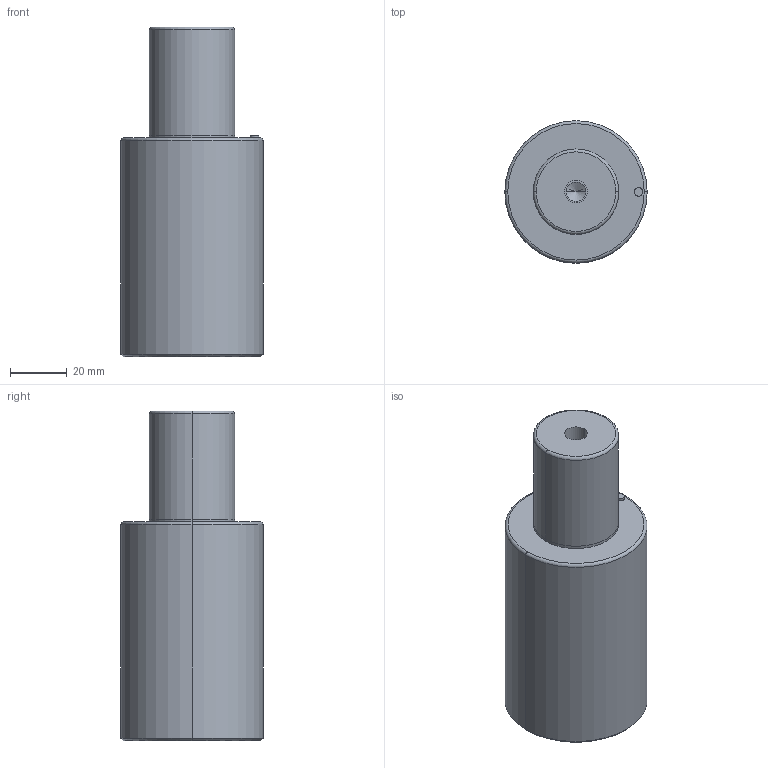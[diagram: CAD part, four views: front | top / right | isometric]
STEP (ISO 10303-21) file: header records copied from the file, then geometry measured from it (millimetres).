
FILE_DESCRIPTION(/* description */ (''),/* implementation_level */ '2;1');
FILE_NAME(/* name */ '3d_gsc50-38_03818_r00.stp',/* time_stamp */ '2011-01-10T14:15:21+09:00',/* author */ ('MISUMI'),/* organization */ (''),/* preprocessor_version */ 'ST-DEVELOPER v11',/* originating_system */ 'UGS - NX 5.0',/* authorisation */ '');
FILE_SCHEMA (('CONFIG_CONTROL_DESIGN'));
Length unit declared in the file: millimetre
Products named in the file (1): 3d_gsc50-38_03818_r00
Bounding box: 50 x 50 x 116 mm (x, y, z)
Volume: 176644.8 mm3; surface area: 20390.4 mm2
Topology: 1 solids, 1 shells, 32 faces, 66 edges, 38 vertices
Faces by surface type: cylinder 16, cone 6, plane 6, torus 4
Entity records: 912 total; most frequent: DIRECTION 168, CARTESIAN_POINT 133, ORIENTED_EDGE 124, AXIS2_PLACEMENT_3D 73, EDGE_CURVE 62, CIRCLE 40, EDGE_LOOP 38, VERTEX_POINT 38
